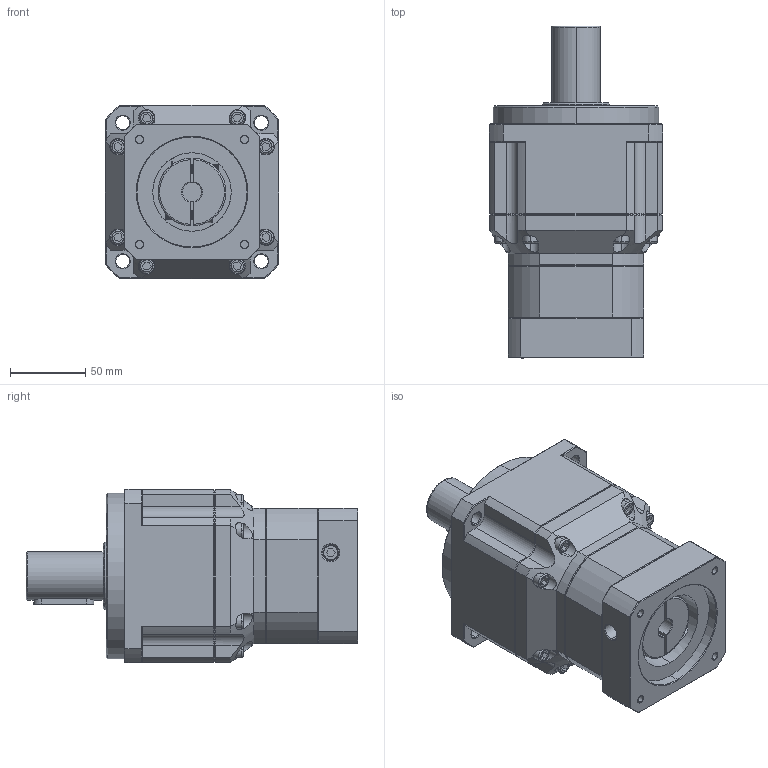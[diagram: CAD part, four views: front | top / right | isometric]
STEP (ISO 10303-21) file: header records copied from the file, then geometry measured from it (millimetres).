
FILE_DESCRIPTION (( 'STEP AP214' ), '1' );
FILE_NAME ('ZPB115-D32-L2-P1-12.7-73-69.6X69.6-M6.step', '2024-06-12T09:54:39', ( 'Windows 蚚誧' ), ( 'Organization' ), 'SwSTEP 2.0', 'SolidWorks 2016', '' );
FILE_SCHEMA (( 'AUTOMOTIVE_DESIGN' ));
Length unit declared in the file: millimetre
Products named in the file (1): ZPB115-D32-L2-P1-12.7-73-69.6X69.6-M6
Bounding box: 115 x 220 x 115 mm (x, y, z)
Surface area: 121299.5 mm2 (no closed solid volume)
Topology: 0 solids, 3 shells, 1756 faces, 4731 edges, 3079 vertices
Faces by surface type: plane 1019, bspline 399, cylinder 190, cone 148
Full cylindrical faces by diameter (mm): 10.2 x1
Entity records: 97386 total; most frequent: CARTESIAN_POINT 49998, ORIENTED_EDGE 9440, DIRECTION 6950, EDGE_CURVE 4729, VECTOR 3170, LINE 3170, VERTEX_POINT 3078, AXIS2_PLACEMENT_3D 1890
